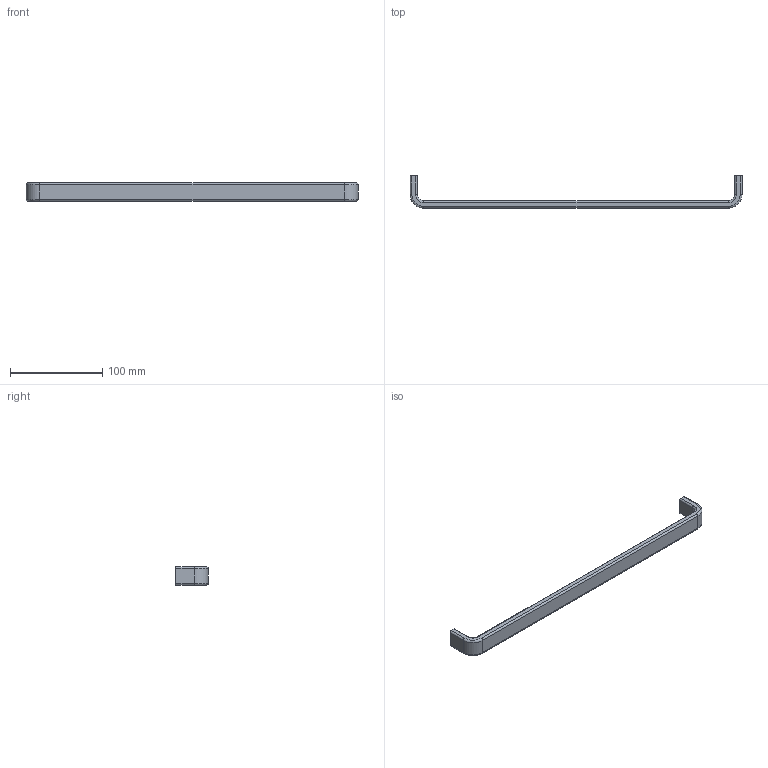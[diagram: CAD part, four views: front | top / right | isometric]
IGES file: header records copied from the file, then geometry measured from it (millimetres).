
Start section: Data from Parasolid IGES Translator 15.0.47, Copyright(c) 2006 Siemens P LM Software. All Rights Reserved.
Global section: file name:  115153.igs; native system:  By UGS Corp.; preprocessor: XPlus GENERIC/IGES 3.0; author: Noname; organization: Noname; date: 20140122.160121; units: millimetre
Bounding box: 360 x 35 x 20 mm (x, y, z)
Surface area: 21893.4 mm2 (no closed solid volume)
Topology: 0 solids, 0 shells, 38 faces, 172 edges, 170 vertices
Faces by surface type: revolution 26, extrusion 12
